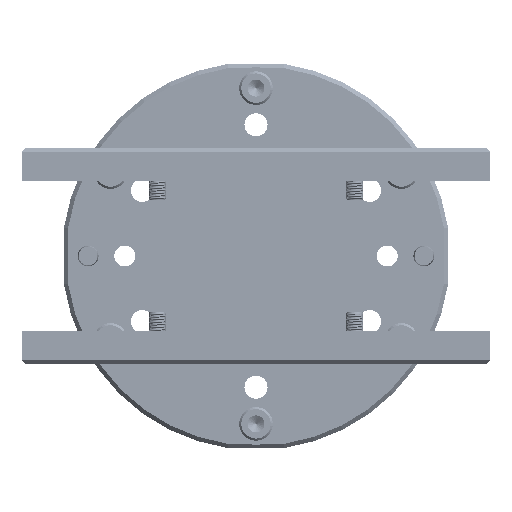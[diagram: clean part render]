
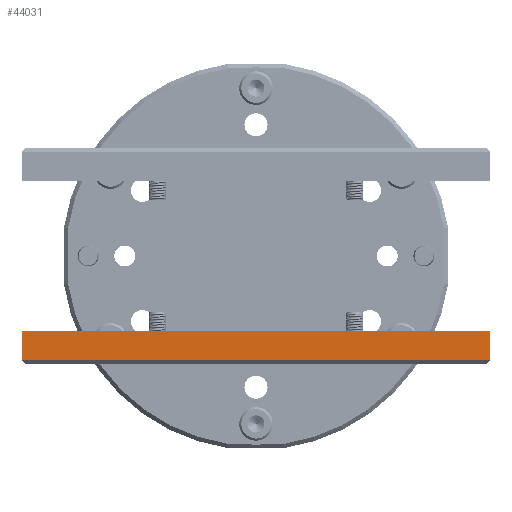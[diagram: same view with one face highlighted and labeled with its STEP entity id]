
A CAD part, front view. The second image highlights one B-rep face of the part: STEP entity #44031.
In plain terms, the highlighted planar face has unit normal (0, -1, 0).
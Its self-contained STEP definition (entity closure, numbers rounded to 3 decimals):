
#3806 = CARTESIAN_POINT ( 'NONE',  ( -1.91, -67.25, -49.56 ) ) ;
#4329 = ORIENTED_EDGE ( 'NONE', *, *, #8764, .F. ) ;
#4944 = LINE ( 'NONE', #91029, #26790 ) ;
#6167 = ORIENTED_EDGE ( 'NONE', *, *, #91107, .T. ) ;
#8408 = FACE_OUTER_BOUND ( 'NONE', #44248, .T. ) ;
#8764 = EDGE_CURVE ( 'NONE', #17575, #38787, #4944, .T. ) ;
#12146 = DIRECTION ( 'NONE',  ( 0., 0., -1. ) ) ;
#16371 = AXIS2_PLACEMENT_3D ( 'NONE', #25432, #43046, #77517 ) ;
#17485 = CARTESIAN_POINT ( 'NONE',  ( -224.91, -67.25, -35.56 ) ) ;
#17575 = VERTEX_POINT ( 'NONE', #17485 ) ;
#20659 = LINE ( 'NONE', #89708, #42208 ) ;
#20873 = DIRECTION ( 'NONE',  ( 1., 0., 0. ) ) ;
#25432 = CARTESIAN_POINT ( 'NONE',  ( -1.91, -67.25, -35.56 ) ) ;
#26545 = CARTESIAN_POINT ( 'NONE',  ( -1.91, -67.25, -35.56 ) ) ;
#26790 = VECTOR ( 'NONE', #20873, 1000. ) ;
#28898 = EDGE_CURVE ( 'NONE', #51306, #37959, #46964, .T. ) ;
#36195 = DIRECTION ( 'NONE',  ( 0., 0., -1. ) ) ;
#37959 = VERTEX_POINT ( 'NONE', #90990 ) ;
#38787 = VERTEX_POINT ( 'NONE', #42083 ) ;
#42083 = CARTESIAN_POINT ( 'NONE',  ( -1.91, -67.25, -35.56 ) ) ;
#42208 = VECTOR ( 'NONE', #12146, 1000. ) ;
#43046 = DIRECTION ( 'NONE',  ( 0., 1., 0. ) ) ;
#43053 = LINE ( 'NONE', #26545, #71936 ) ;
#44031 = ADVANCED_FACE ( 'NONE', ( #8408 ), #102998, .F. ) ;
#44248 = EDGE_LOOP ( 'NONE', ( #6167, #108942, #56442, #4329 ) ) ;
#46964 = LINE ( 'NONE', #3806, #112022 ) ;
#51306 = VERTEX_POINT ( 'NONE', #94900 ) ;
#56442 = ORIENTED_EDGE ( 'NONE', *, *, #64362, .F. ) ;
#58625 = DIRECTION ( 'NONE',  ( 1., 0., 0. ) ) ;
#64362 = EDGE_CURVE ( 'NONE', #38787, #37959, #43053, .T. ) ;
#71936 = VECTOR ( 'NONE', #36195, 1000. ) ;
#77517 = DIRECTION ( 'NONE',  ( 0., 0., -1. ) ) ;
#89708 = CARTESIAN_POINT ( 'NONE',  ( -224.91, -67.25, -35.56 ) ) ;
#90990 = CARTESIAN_POINT ( 'NONE',  ( -1.91, -67.25, -49.56 ) ) ;
#91029 = CARTESIAN_POINT ( 'NONE',  ( -1.91, -67.25, -35.56 ) ) ;
#91107 = EDGE_CURVE ( 'NONE', #17575, #51306, #20659, .T. ) ;
#94900 = CARTESIAN_POINT ( 'NONE',  ( -224.91, -67.25, -49.56 ) ) ;
#102998 = PLANE ( 'NONE',  #16371 ) ;
#108942 = ORIENTED_EDGE ( 'NONE', *, *, #28898, .T. ) ;
#112022 = VECTOR ( 'NONE', #58625, 1000. ) ;
